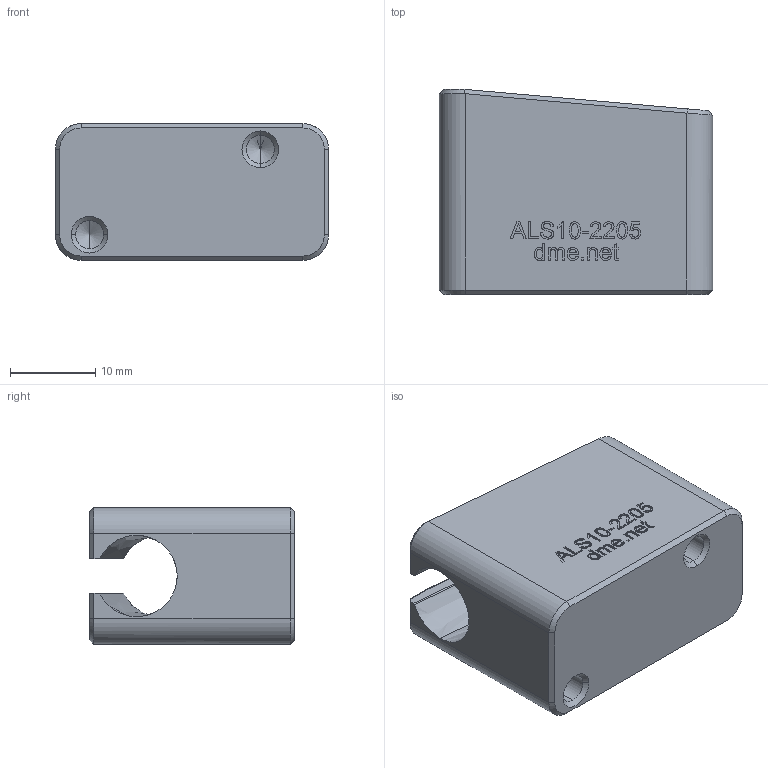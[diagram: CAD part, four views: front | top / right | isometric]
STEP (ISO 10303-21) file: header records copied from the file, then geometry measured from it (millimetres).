
FILE_DESCRIPTION (( 'STEP AP203' ), '1' );
FILE_NAME ('ALS10-2205.STEP', '2021-01-10T21:11:43', ( '' ), ( '' ), 'SwSTEP 2.0', 'SolidWorks 2020', '' );
FILE_SCHEMA (( 'CONFIG_CONTROL_DESIGN' ));
Length unit declared in the file: millimetre
Products named in the file (1): ALS10-2205
Bounding box: 32 x 24 x 16 mm (x, y, z)
Volume: 8926.9 mm3; surface area: 3847.2 mm2
Topology: 1 solids, 1 shells, 276 faces, 730 edges, 477 vertices
Faces by surface type: plane 133, bspline 115, cone 14, cylinder 14
Entity records: 14735 total; most frequent: CARTESIAN_POINT 8659, ORIENTED_EDGE 1452, DIRECTION 830, EDGE_CURVE 726, VERTEX_POINT 477, LINE 454, VECTOR 454, EDGE_LOOP 301
